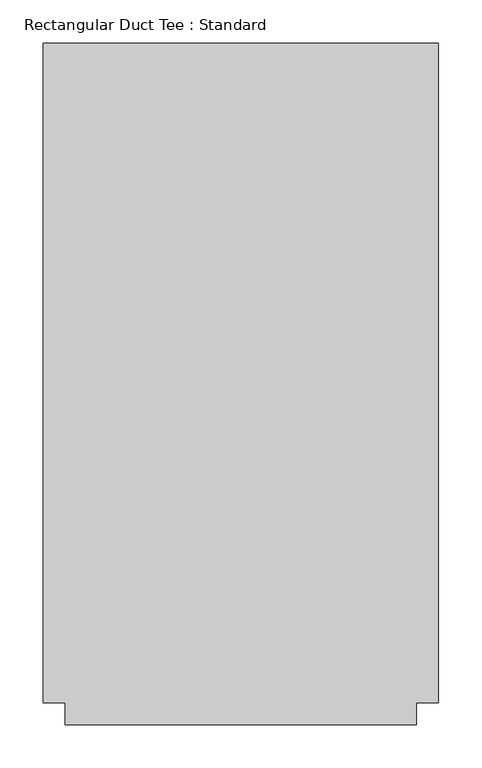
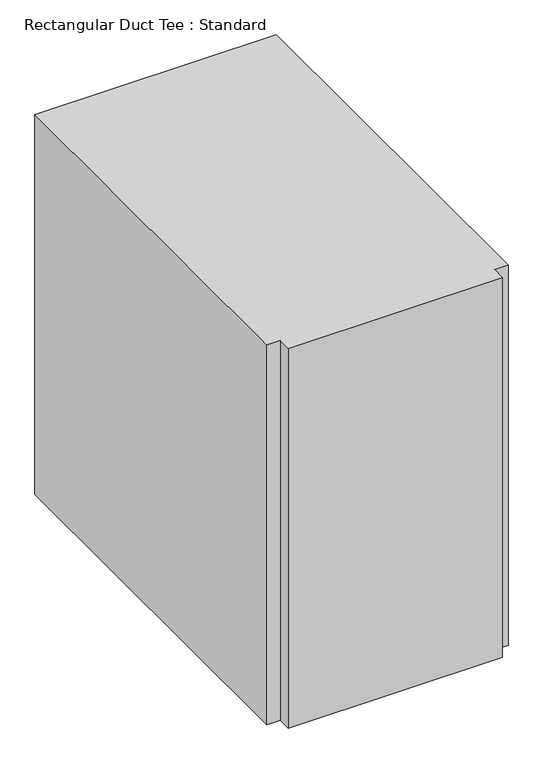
"""IFC4 building model written with IfcOpenShell, lengths in millimetres: duct fitting geometry, Rectangular Duct Tee : Standard."""

from ifc_helpers import new_model, si_unit, frame, origin, place, context, project, spatial, polyline, outline, extrude, source, transform, mapped, element, save


def rectangular_duct_tee_standard_4e0234f7(model_context):
    return source(origin(), model_context, "Body", "SweptSolid", [
        extrude(outline(polyline([(-228.6, -381.0), (-228.6, 381.0), (228.6, 381.0), (228.6, -381.0), (203.2, -381.0), (203.2, -406.4), (-203.2, -406.4), (-203.2, -381.0), (-228.6, -381.0)])), frame((0.0, 0.0, -381.0), z_axis=(0.0, 0.0, 1.0), x_axis=(1.0, 0.0, 0.0)), (0.0, 0.0, 1.0), 762.0),
        extrude(outline(polyline([(-228.6, 381.0), (228.6, 381.0), (228.6, -381.0), (203.2, -381.0), (203.2, -406.4), (-203.2, -406.4), (-203.2, -381.0), (-228.6, -381.0), (-228.6, 381.0)])), frame((0.0, 0.0, -381.0), z_axis=(0.0, 0.0, 1.0), x_axis=(1.0, 0.0, 0.0)), (0.0, 0.0, 1.0), 762.0),
        extrude(outline(polyline([(-228.6, -381.0), (-228.6, 381.0), (228.6, 381.0), (228.6, -381.0), (203.2, -381.0), (203.2, -406.4), (-203.2, -406.4), (-203.2, -381.0), (-228.6, -381.0)])), frame((0.0, 0.0, -381.0), z_axis=(0.0, 0.0, 1.0), x_axis=(1.0, 0.0, 0.0)), (0.0, 0.0, 1.0), 762.0),
    ])


if __name__ == "__main__":
    model = new_model("IFC4")
    model_context = context("Model", 3, world=origin())
    ifc_project = project(units=[si_unit("LENGTHUNIT", "METRE", prefix="MILLI")], contexts=[model_context])
    site = spatial("IfcSite", under=ifc_project)
    building = spatial("IfcBuilding", under=site)
    placement = place(None, origin())
    rectangular_duct_tee_standard_shape = rectangular_duct_tee_standard_4e0234f7(model_context)
    element("IfcDuctFitting", 1, ObjectType="Rectangular Duct Tee : Standard", at=placement, inside=building, context=model_context, shape_type="MappedRepresentation", body=[
        mapped(rectangular_duct_tee_standard_shape, transform((0.0, 0.0, 0.0), x_axis=(1.0, 0.0, 0.0), y_axis=(0.0, 1.0, 0.0), z_axis=(0.0, 0.0, 1.0))),
    ])
    save(model, "model.ifc")
